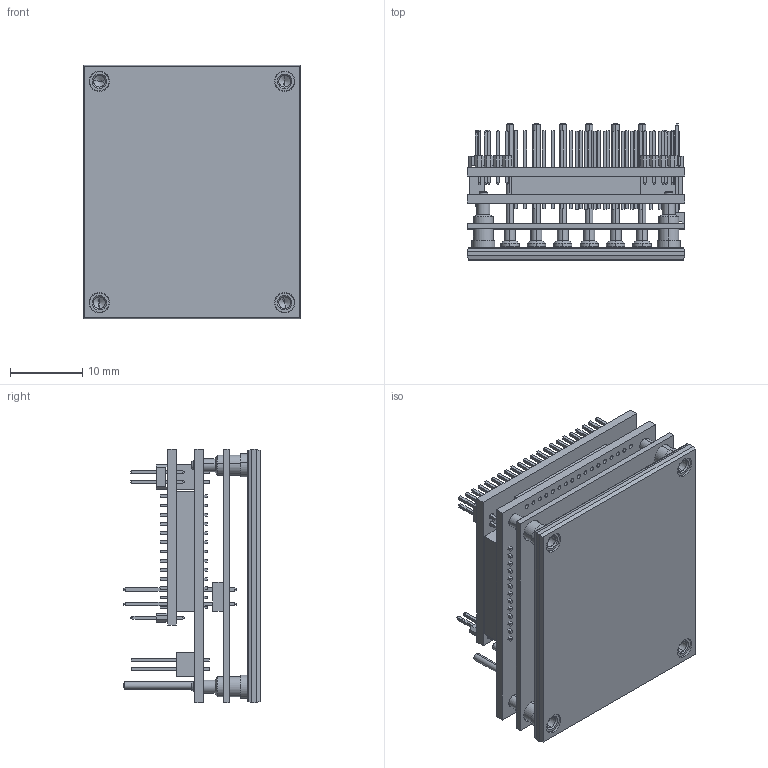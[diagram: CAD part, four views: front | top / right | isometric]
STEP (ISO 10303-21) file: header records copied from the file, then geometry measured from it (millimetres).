
FILE_DESCRIPTION (( 'STEP AP203' ), '1' );
FILE_NAME ('ASS S WHI-ETHERCAT.STEP', '2014-02-17T12:40:07', ( 'YAEL' ), ( 'Microsoft' ), 'SwSTEP 2.0', 'SolidWorks 2013', '' );
FILE_SCHEMA (( 'CONFIG_CONTROL_DESIGN' ));
Products named in the file (1): ASS S WHI-ETHERCAT
Bounding box: 30 x 18.84 x 35 mm (x, y, z)
Volume: 5434.2 mm3; surface area: 11324.9 mm2
Topology: 28 solids, 28 shells, 2810 faces, 7154 edges, 4604 vertices
Faces by surface type: plane 1916, cylinder 782, cone 76, torus 36
Entity records: 85189 total; most frequent: CARTESIAN_POINT 16169, ORIENTED_EDGE 14292, DIRECTION 14008, EDGE_CURVE 7146, LINE 4962, VECTOR 4962, VERTEX_POINT 4604, AXIS2_PLACEMENT_3D 4523
